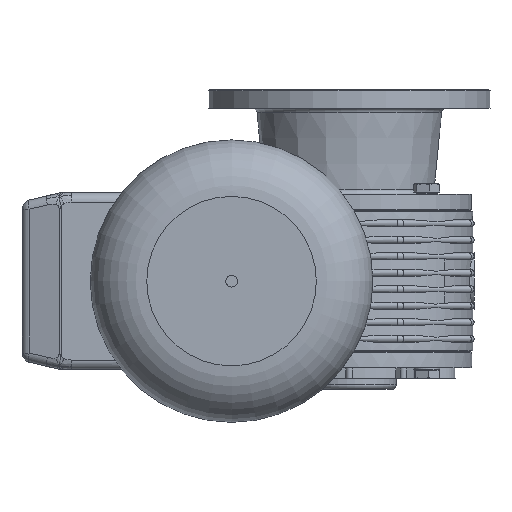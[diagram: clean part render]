
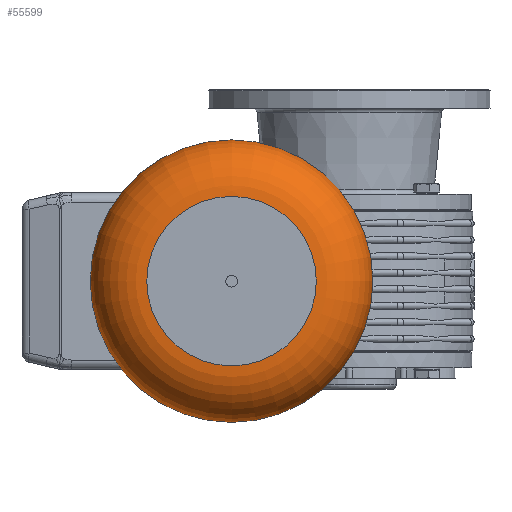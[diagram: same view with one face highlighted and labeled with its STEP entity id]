
A CAD part, left-side view. The second image highlights one B-rep face of the part: STEP entity #55599.
In plain terms, the highlighted toroidal (fillet/blend) face has major radius 36 mm and minor radius 24 mm.
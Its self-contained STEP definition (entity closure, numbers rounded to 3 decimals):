
#55572=CARTESIAN_POINT('',(236.0,0.0,0.0));
#55573=DIRECTION('',(1.0,0.0,0.0));
#55574=DIRECTION('',(0.0,0.0,-1.0));
#55575=AXIS2_PLACEMENT_3D('',#55572,#55573,#55574);
#55576=TOROIDAL_SURFACE('',#55575,36.,24.0);
#55577=CARTESIAN_POINT('',(260.0,36.,0.0));
#55578=VERTEX_POINT('',#55577);
#55579=CARTESIAN_POINT('',(260.0,0.0,0.0));
#55580=DIRECTION('',(1.0,0.0,0.0));
#55581=DIRECTION('',(0.0,1.0,0.0));
#55582=AXIS2_PLACEMENT_3D('',#55579,#55580,#55581);
#55583=CIRCLE('',#55582,36.);
#55584=EDGE_CURVE('',#55578,#55578,#55583,.T.);
#55585=ORIENTED_EDGE('',*,*,#55584,.F.);
#55586=EDGE_LOOP('',(#55585));
#55587=FACE_OUTER_BOUND('',#55586,.T.);
#55588=CARTESIAN_POINT('',(236.0,60.,0.0));
#55589=VERTEX_POINT('',#55588);
#55590=CARTESIAN_POINT('',(236.0,0.0,0.0));
#55591=DIRECTION('',(1.0,0.0,0.0));
#55592=DIRECTION('',(0.0,1.0,0.0));
#55593=AXIS2_PLACEMENT_3D('',#55590,#55591,#55592);
#55594=CIRCLE('',#55593,60.);
#55595=EDGE_CURVE('',#55589,#55589,#55594,.T.);
#55596=ORIENTED_EDGE('',*,*,#55595,.T.);
#55597=EDGE_LOOP('',(#55596));
#55598=FACE_BOUND('',#55597,.T.);
#55599=ADVANCED_FACE('',(#55587,#55598),#55576,.T.);
